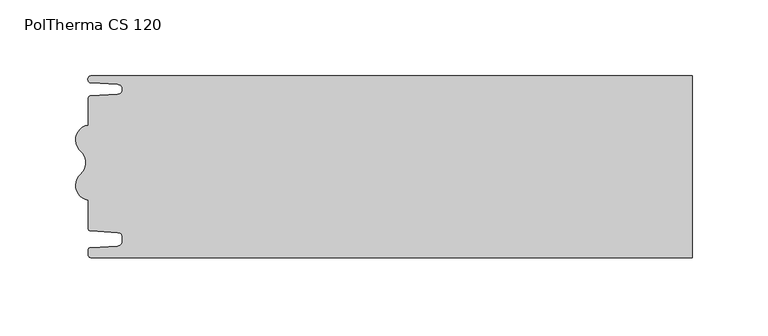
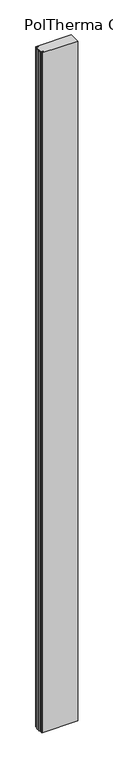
"""IFC4 building model written with IfcOpenShell, lengths in millimetres: plate geometry, Europanels_Poltherma CS_Vt : PolTherma CS 120."""

from ifc_helpers import new_model, si_unit, point, frame_2d, origin, origin_with_axes, place, context, project, spatial, polyline, circle_curve, trimmed, segment, composite_curve, outline, extrude, source, transform, mapped, element, save


def poltherma_cs_120_100e0ef2(model_context):
    return source(origin(), model_context, "Body", "SweptSolid", [
        extrude(outline(composite_curve([segment(polyline([(200.0, 60.0), (200.0, -60.0), (-196.5011047, -60.0)]), True, "CONTINUOUS"), segment(trimmed(circle_curve(frame_2d((-196.5011047, -58.0)), 2.0), [point((-196.5011047, -60.0))], [point((-198.5011047, -58.0))], False, "CARTESIAN"), True, "CONTINUOUS"), segment(polyline([(-198.5011047, -58.0), (-198.5011047, -55.2751521)]), True, "CONTINUOUS"), segment(trimmed(circle_curve(frame_2d((-196.5011047, -55.2751521)), 2.0), [point((-198.5011047, -55.2751521))], [point((-196.6091486, -53.2780726))], False, "CARTESIAN"), True, "CONTINUOUS"), segment(polyline([(-196.6091486, -53.2780726), (-178.8358621, -52.3165207)]), True, "CONTINUOUS"), segment(trimmed(circle_curve(frame_2d((-178.9979279, -49.3209015)), 3.0), [point((-178.8358621, -52.3165207))], [point((-175.9979279, -49.3209015))], True, "CARTESIAN"), True, "CONTINUOUS"), segment(polyline([(-175.9979279, -49.3209015), (-175.9979279, -46.3793238)]), True, "CONTINUOUS"), segment(trimmed(circle_curve(frame_2d((-178.9979279, -46.3793238)), 3.0), [point((-175.9979279, -46.3793238))], [point((-178.8252666, -43.3842966))], True, "CARTESIAN"), True, "CONTINUOUS"), segment(polyline([(-178.8252666, -43.3842966), (-196.8047015, -42.3477941)]), True, "CONTINUOUS"), segment(trimmed(circle_curve(frame_2d((-196.7011047, -40.5507777)), 1.8), [point((-196.8047015, -42.3477941))], [point((-198.5011047, -40.5507777))], False, "CARTESIAN"), True, "CONTINUOUS"), segment(polyline([(-198.5011047, -40.5507777), (-198.5011047, -22.1267156)]), True, "CONTINUOUS"), segment(trimmed(circle_curve(frame_2d((-196.6475513, -12.3)), 10.0), [point((-198.5011047, -22.1267156))], [point((-203.2619295, -4.8))], False, "CARTESIAN"), True, "CONTINUOUS"), segment(trimmed(circle_curve(frame_2d((-209.8763078, 2.7)), 10.0), [point((-203.2619295, -4.8))], [point((-203.2619295, 10.2))], True, "CARTESIAN"), True, "CONTINUOUS"), segment(trimmed(circle_curve(frame_2d((-196.6475513, 17.7)), 10.0), [point((-203.2619295, 10.2))], [point((-198.5011047, 27.5267156))], False, "CARTESIAN"), True, "CONTINUOUS"), segment(polyline([(-198.5011047, 27.5267156), (-198.5011047, 44.9895357)]), True, "CONTINUOUS"), segment(trimmed(circle_curve(frame_2d((-196.7511047, 44.9895357)), 1.75), [point((-198.5011047, 44.9895357))], [point((-196.8518238, 46.7366349))], False, "CARTESIAN"), True, "CONTINUOUS"), segment(polyline([(-196.8518238, 46.7366349), (-178.9396487, 47.76926)]), True, "CONTINUOUS"), segment(trimmed(circle_curve(frame_2d((-179.1287609, 51.049649)), 3.2858356), [point((-178.9396487, 47.76926))], [point((-178.9512537, 54.3306864))], True, "CARTESIAN"), True, "CONTINUOUS"), segment(polyline([(-178.9512537, 54.3306864), (-196.4100907, 55.2752262)]), True, "CONTINUOUS"), segment(trimmed(circle_curve(frame_2d((-196.2823767, 57.635887)), 2.364113), [point((-196.4100907, 55.2752262))], [point((-196.2823767, 60.0))], False, "CARTESIAN"), True, "CONTINUOUS"), segment(polyline([(-196.2823767, 60.0), (200.0, 60.0)]), True, "CONTINUOUS")], self_intersect=False)), origin_with_axes(), (0.0, 0.0, 1.0), 8000.0),
    ])


if __name__ == "__main__":
    model = new_model("IFC4")
    model_context = context("Model", 3, world=origin())
    ifc_project = project(units=[si_unit("LENGTHUNIT", "METRE", prefix="MILLI")], contexts=[model_context])
    site = spatial("IfcSite", under=ifc_project)
    building = spatial("IfcBuilding", under=site)
    placement = place(None, origin())
    poltherma_cs_120_shape = poltherma_cs_120_100e0ef2(model_context)
    element("IfcPlate", 1, ObjectType="Europanels_Poltherma CS_Vt : PolTherma CS 120", at=placement, inside=building, context=model_context, shape_type="MappedRepresentation", body=[
        mapped(poltherma_cs_120_shape, transform((0.0, 0.0, 0.0), x_axis=(1.0, 0.0, 0.0), y_axis=(0.0, 1.0, 0.0), z_axis=(0.0, 0.0, 1.0))),
    ])
    save(model, "model.ifc")
